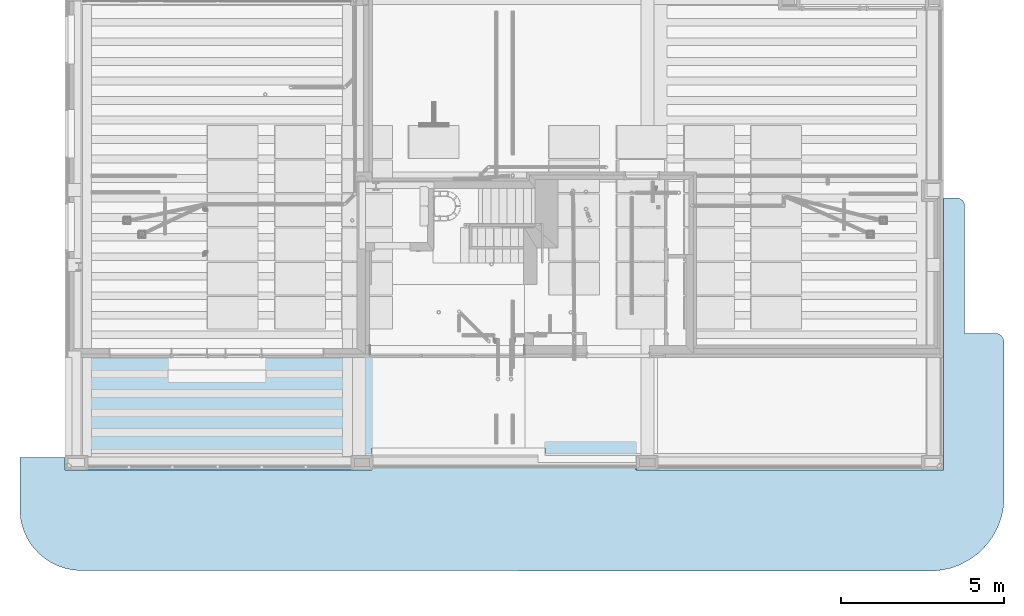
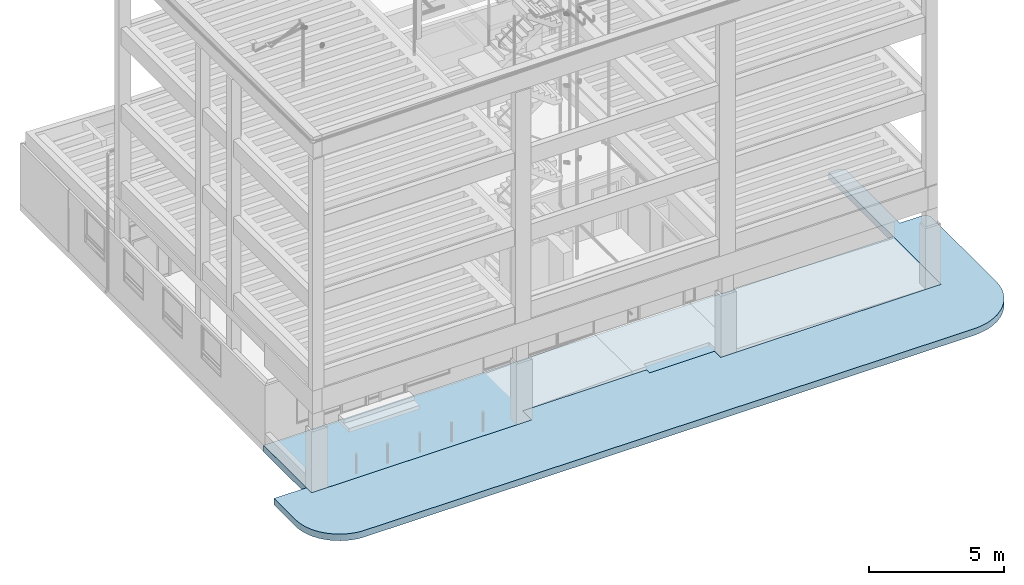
# One storey, part 17 of 108: 2 slabs.
"""IFC2X3 building model written with IfcOpenShell, lengths in metres."""

import ifcopenshell
import ifcopenshell.guid

model = None  # the IFC model being written
_history = None  # IfcOwnerHistory: only IFC2X3 demands one
_inside = {}  # id of a spatial element -> (the spatial element, [elements in it])
_under = {}  # id of a project, library or spatial element -> (it, [spatial elements below it])
_declared = {}  # id of a project -> (the project, [libraries it declares])
_typed = {}  # id of a type object -> (the type object, [elements of that type])
_made_of = {}  # id of a material, layer set ... -> (it, [elements and type objects made of it])


def new_model(schema):
    """Start an empty IFC model of exactly this schema.

    Asked for "IFC4X3", IfcOpenShell would pick the latest addendum, in which some entities
    have other attributes; the version numbers below select the first issue.
    IFC2X3 requires an IfcOwnerHistory on every rooted entity: one is made here for all.
    """
    global model, _history
    if schema == "IFC4X3":
        model = ifcopenshell.file(schema_version=(4, 3, 0, 0))
    else:
        model = ifcopenshell.file(schema=schema)
    _inside.clear()
    _under.clear()
    _declared.clear()
    _typed.clear()
    _made_of.clear()
    _history = None
    if model.schema == "IFC2X3":
        org = make("IfcOrganization", Name="unknown")
        user = make(
            "IfcPersonAndOrganization",
            ThePerson=make("IfcPerson", FamilyName="unknown"),
            TheOrganization=org,
        )
        app = make(
            "IfcApplication",
            ApplicationDeveloper=org,
            Version="unknown",
            ApplicationFullName="unknown",
            ApplicationIdentifier="unknown",
        )
        _history = make(
            "IfcOwnerHistory",
            OwningUser=user,
            OwningApplication=app,
            ChangeAction="ADDED",
            CreationDate=0,
        )
    return model


def make(cls, **values):
    """One entity of the class cls with the attributes given. An attribute that is None is left unset."""
    return model.create_entity(
        cls, **{name: value for name, value in values.items() if value is not None}
    )


def entity(cls, *values):
    """Any entity or typed value of the class cls, its attributes in the order of the schema. None: left unset."""
    e = model.create_entity(cls)
    for i, value in enumerate(values):
        if value is not None:
            e[i] = value
    return e


def rooted(cls, **values):
    """An entity with a GlobalId (a new one), such as an element, a storey or a relation."""
    return make(cls, GlobalId=ifcopenshell.guid.new(), OwnerHistory=_history, **values)


def si_unit(unit_type, name, prefix=None):
    """IfcSIUnit, for example si_unit("LENGTHUNIT", "METRE", prefix="MILLI")."""
    return make("IfcSIUnit", UnitType=unit_type, Prefix=prefix, Name=name)


def converted_unit(unit_type, name, factor, base, dimensions=None, offset=None):
    """IfcConversionBasedUnit, such as the inch: factor (a typed value) times the base unit."""
    return make(
        "IfcConversionBasedUnit"
        if offset is None
        else "IfcConversionBasedUnitWithOffset",
        ConversionOffset=offset,
        Dimensions=None
        if dimensions is None
        else entity("IfcDimensionalExponents", *dimensions),
        UnitType=unit_type,
        Name=name,
        ConversionFactor=make(
            "IfcMeasureWithUnit", ValueComponent=factor, UnitComponent=base
        ),
    )


def derived_unit(unit_type, elements):
    """IfcDerivedUnit: a product of units, each with its exponent."""
    return make(
        "IfcDerivedUnit",
        Elements=[
            make("IfcDerivedUnitElement", Unit=unit, Exponent=power)
            for unit, power in elements
        ],
        UnitType=unit_type,
    )


def money_unit(currency):
    """IfcMonetaryUnit."""
    return make("IfcMonetaryUnit", Currency=currency)


def assignment(units):
    """IfcUnitAssignment: the units of a project."""
    return None if units is None else make("IfcUnitAssignment", Units=units)


def point(xyz):
    """IfcCartesianPoint."""
    return None if xyz is None else make("IfcCartesianPoint", Coordinates=xyz)


def direction(xyz):
    """IfcDirection."""
    return None if xyz is None else make("IfcDirection", DirectionRatios=xyz)


def frame(location, z_axis=None, x_axis=None):
    """IfcAxis2Placement3D, a coordinate frame: its origin and axes. An axis left out is left unset."""
    return make(
        "IfcAxis2Placement3D",
        Location=point(location),
        Axis=direction(z_axis),
        RefDirection=direction(x_axis),
    )


def origin_with_axes():
    """The frame at (0, 0, 0) with the z axis (0, 0, 1) and the x axis (1, 0, 0) written out."""
    return frame((0.0, 0.0, 0.0), z_axis=(0.0, 0.0, 1.0), x_axis=(1.0, 0.0, 0.0))


def place(relative_to, where):
    """IfcLocalPlacement: puts the frame where relative to a parent placement (None: the world)."""
    return make(
        "IfcLocalPlacement", PlacementRelTo=relative_to, RelativePlacement=where
    )


def context(
    kind, dimensions, precision=None, world=None, true_north=None, identifier=None
):
    """IfcGeometricRepresentationContext, for example the 3D "Model" context."""
    return make(
        "IfcGeometricRepresentationContext",
        ContextIdentifier=identifier,
        ContextType=kind,
        CoordinateSpaceDimension=dimensions,
        Precision=precision,
        WorldCoordinateSystem=world,
        TrueNorth=true_north,
    )


def subcontext(parent, identifier, kind, view, scale=None):
    """IfcGeometricRepresentationSubContext, for example "Body" below "Model"."""
    return make(
        "IfcGeometricRepresentationSubContext",
        ContextIdentifier=identifier,
        ContextType=kind,
        ParentContext=parent,
        TargetScale=scale,
        TargetView=view,
    )


def project(units=None, contexts=None):
    """IfcProject with its units and contexts."""
    return rooted(
        "IfcProject",
        Name="project",
        RepresentationContexts=contexts,
        UnitsInContext=assignment(units),
    )


def spatial(cls, under=None, at=None, **own):
    """A site, building, storey or space (cls), placed at a placement, below another one or the project."""
    s = rooted(cls, ObjectPlacement=at, **own)
    if under is not None:
        _under.setdefault(under.id(), (under, []))[1].append(s)
    return s


def faces_of(points, faces, orient=None, outer=None):
    """IfcFace entities. A face is a list of loops; a loop is a list of indices into points, from 0.

    orient and outer hold one flag for each loop. By default every Orientation is true, the
    first loop of a face is its IfcFaceOuterBound and the others are IfcFaceBound.
    """
    made = []
    for i, loops in enumerate(faces):
        bounds = []
        for j, loop in enumerate(loops):
            is_outer = j == 0 if outer is None else outer[i][j]
            bounds.append(
                make(
                    "IfcFaceOuterBound" if is_outer else "IfcFaceBound",
                    Bound=make("IfcPolyLoop", Polygon=[points[k] for k in loop]),
                    Orientation=True if orient is None else orient[i][j],
                )
            )
        made.append(make("IfcFace", Bounds=bounds))
    return made


def faceted_brep(points, faces, orient=None, outer=None, voids=None):
    """IfcFacetedBrep: a solid bounded by flat faces; with voids (closed shells), ...WithVoids."""
    shared = [point(p) for p in points]
    hull = make("IfcClosedShell", CfsFaces=faces_of(shared, faces, orient, outer))
    if voids is None:
        return make("IfcFacetedBrep", Outer=hull)
    return make(
        "IfcFacetedBrepWithVoids",
        Outer=hull,
        Voids=[
            make(cls, CfsFaces=faces_of(shared, fs, o, b)) for cls, fs, o, b in voids
        ],
    )


def shape(context_of_items, identifier, shape_type, items):
    """IfcShapeRepresentation: the items that make up one representation, for example the "Body"."""
    return make(
        "IfcShapeRepresentation",
        ContextOfItems=context_of_items,
        RepresentationIdentifier=identifier,
        RepresentationType=shape_type,
        Items=items,
    )


def material(Name=None, Category=None):
    """IfcMaterial."""
    return make("IfcMaterial", Name=Name, Category=Category)


def made_of(thing, what):
    """Note that an element or type object is made of a material, layer set ...; save() writes the relation."""
    if what is not None:
        _made_of.setdefault(what.id(), (what, []))[1].append(thing)
    return thing


def type_object(cls, material=None, **own):
    """A type object (cls), such as IfcWallType, which elements share."""
    return made_of(rooted(cls, **own), material)


def element(
    cls,
    number,
    at=None,
    inside=None,
    cuts=None,
    type_object=None,
    material=None,
    context=None,
    identifier="Body",
    shape_type=None,
    held_by="IfcProductDefinitionShape",
    body=None,
    shapes=None,
    **own,
):
    """One element of the class cls, such as IfcWall. Its Tag is "e" and its number.

    at: its placement. inside: the storey or other place that contains it. cuts: it is an
    opening in that element (IfcRelVoidsElement). A single representation is given by context,
    identifier, shape_type and body (its items); several are given by shapes. held_by: the class
    of the entity that holds the representations. save() writes the other relations.
    """
    e = rooted(cls, Tag="e%d" % number, ObjectPlacement=at, **own)
    if body is not None:
        shapes = [shape(context, identifier, shape_type, body)]
    if shapes is not None:
        e.Representation = make(held_by, Representations=shapes)
    if inside is not None:
        _inside.setdefault(inside.id(), (inside, []))[1].append(e)
    if cuts is not None:
        rooted(
            "IfcRelVoidsElement", RelatingBuildingElement=cuts, RelatedOpeningElement=e
        )
    if type_object is not None:
        _typed.setdefault(type_object.id(), (type_object, []))[1].append(e)
    return made_of(e, material)


def aggregate(whole, parts):
    """IfcRelAggregates: a whole, such as a stair, and the parts it consists of."""
    return rooted("IfcRelAggregates", RelatingObject=whole, RelatedObjects=parts)


def save(model, path):
    """Write the relations noted so far, then the file.

    IfcRelAggregates (storeys below a building ...), IfcRelContainedInSpatialStructure (elements
    in a storey), IfcRelDefinesByType, IfcRelAssociatesMaterial and IfcRelDeclares: one each for
    every whole, place, type object, material and project.
    """
    for whole, parts in _under.values():
        aggregate(whole, parts)
    for where, things in _inside.values():
        rooted(
            "IfcRelContainedInSpatialStructure",
            RelatedElements=things,
            RelatingStructure=where,
        )
    for kind, things in _typed.values():
        rooted("IfcRelDefinesByType", RelatedObjects=things, RelatingType=kind)
    for what, things in _made_of.values():
        rooted("IfcRelAssociatesMaterial", RelatedObjects=things, RelatingMaterial=what)
    for by, libraries in _declared.values():
        rooted("IfcRelDeclares", RelatingContext=by, RelatedDefinitions=libraries)
    model.write(path)


model = new_model("IFC2X3")

# Units and contexts
model_context = context("Model", 3, precision=1e-05, world=origin_with_axes(), true_north=direction((0.0, 1.0)))
body_context = subcontext(model_context, "Body", "Model", "MODEL_VIEW", scale=1.0)
ifc_project = project(units=[si_unit("LENGTHUNIT", "METRE"), si_unit("AREAUNIT", "SQUARE_METRE"), si_unit("VOLUMEUNIT", "CUBIC_METRE"), si_unit("ABSORBEDDOSEUNIT", "GRAY"), si_unit("AMOUNTOFSUBSTANCEUNIT", "MOLE"), si_unit("DOSEEQUIVALENTUNIT", "SIEVERT"), si_unit("ELECTRICCAPACITANCEUNIT", "FARAD"), si_unit("ELECTRICCHARGEUNIT", "COULOMB"), si_unit("ELECTRICCONDUCTANCEUNIT", "SIEMENS"), si_unit("ELECTRICCURRENTUNIT", "AMPERE"), si_unit("ELECTRICRESISTANCEUNIT", "OHM"), si_unit("ELECTRICVOLTAGEUNIT", "VOLT"), si_unit("ENERGYUNIT", "JOULE"), si_unit("FORCEUNIT", "NEWTON"), si_unit("FREQUENCYUNIT", "HERTZ"), si_unit("ILLUMINANCEUNIT", "LUX"), si_unit("INDUCTANCEUNIT", "HENRY"), si_unit("LUMINOUSFLUXUNIT", "LUMEN"), si_unit("LUMINOUSINTENSITYUNIT", "CANDELA"), si_unit("MAGNETICFLUXDENSITYUNIT", "TESLA"), si_unit("MAGNETICFLUXUNIT", "WEBER"), si_unit("MASSUNIT", "GRAM"), converted_unit("PLANEANGLEUNIT", "degree", entity("IfcReal", 0.0174532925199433), si_unit("PLANEANGLEUNIT", "RADIAN"), dimensions=[0, 0, 0, 0, 0, 0, 0]), si_unit("POWERUNIT", "WATT"), si_unit("PRESSUREUNIT", "PASCAL"), si_unit("RADIOACTIVITYUNIT", "BECQUEREL"), si_unit("SOLIDANGLEUNIT", "STERADIAN"), si_unit("THERMODYNAMICTEMPERATUREUNIT", "KELVIN"), si_unit("TIMEUNIT", "SECOND"), derived_unit("ACCELERATIONUNIT", [(si_unit("LENGTHUNIT", "METRE"), 1), (si_unit("TIMEUNIT", "SECOND"), -2)]), derived_unit("ANGULARVELOCITYUNIT", [(converted_unit("PLANEANGLEUNIT", "degree", entity("IfcReal", 0.0174532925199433), si_unit("PLANEANGLEUNIT", "RADIAN"), dimensions=[0, 0, 0, 0, 0, 0, 0]), 1), (si_unit("TIMEUNIT", "SECOND"), -1)]), derived_unit("CURVATUREUNIT", [(converted_unit("PLANEANGLEUNIT", "degree", entity("IfcReal", 0.0174532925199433), si_unit("PLANEANGLEUNIT", "RADIAN"), dimensions=[0, 0, 0, 0, 0, 0, 0]), 1), (si_unit("LENGTHUNIT", "METRE"), -1)]), derived_unit("DYNAMICVISCOSITYUNIT", [(si_unit("PRESSUREUNIT", "PASCAL"), 1), (si_unit("TIMEUNIT", "SECOND"), 1)]), derived_unit("HEATFLUXDENSITYUNIT", [(si_unit("POWERUNIT", "WATT"), 1), (si_unit("LENGTHUNIT", "METRE"), -2)]), derived_unit("HEATINGVALUEUNIT", [(si_unit("ENERGYUNIT", "JOULE"), 1), (si_unit("MASSUNIT", "GRAM"), -1)]), derived_unit("INTEGERCOUNTRATEUNIT", [(si_unit("TIMEUNIT", "SECOND"), -1)]), derived_unit("IONCONCENTRATIONUNIT", [(si_unit("MASSUNIT", "GRAM"), 1), (si_unit("VOLUMEUNIT", "CUBIC_METRE"), -1)]), derived_unit("ISOTHERMALMOISTURECAPACITYUNIT", [(si_unit("VOLUMEUNIT", "CUBIC_METRE"), 1), (si_unit("MASSUNIT", "GRAM"), -1)]), derived_unit("KINEMATICVISCOSITYUNIT", [(si_unit("AREAUNIT", "SQUARE_METRE"), 1), (si_unit("TIMEUNIT", "SECOND"), -1)]), derived_unit("LINEARFORCEUNIT", [(si_unit("FORCEUNIT", "NEWTON"), 1), (si_unit("LENGTHUNIT", "METRE"), -1)]), derived_unit("LINEARMOMENTUNIT", [(si_unit("FORCEUNIT", "NEWTON"), 1), (si_unit("LENGTHUNIT", "METRE"), -1)]), derived_unit("LINEARSTIFFNESSUNIT", [(si_unit("FORCEUNIT", "NEWTON"), 1), (si_unit("LENGTHUNIT", "METRE"), -1)]), derived_unit("LINEARVELOCITYUNIT", [(si_unit("LENGTHUNIT", "METRE"), 1), (si_unit("TIMEUNIT", "SECOND"), -1)]), derived_unit("LUMINOUSINTENSITYDISTRIBUTIONUNIT", [(si_unit("LUMINOUSINTENSITYUNIT", "CANDELA"), 1), (si_unit("LUMINOUSFLUXUNIT", "LUMEN"), -1)]), derived_unit("MASSDENSITYUNIT", [(si_unit("MASSUNIT", "GRAM"), 1), (si_unit("VOLUMEUNIT", "CUBIC_METRE"), -1)]), derived_unit("MASSFLOWRATEUNIT", [(si_unit("MASSUNIT", "GRAM"), 1), (si_unit("TIMEUNIT", "SECOND"), -1)]), derived_unit("MASSPERLENGTHUNIT", [(si_unit("MASSUNIT", "GRAM"), 1), (si_unit("LENGTHUNIT", "METRE"), -1)]), derived_unit("MODULUSOFELASTICITYUNIT", [(si_unit("FORCEUNIT", "NEWTON"), 1), (si_unit("AREAUNIT", "SQUARE_METRE"), -1)]), derived_unit("MODULUSOFLINEARSUBGRADEREACTIONUNIT", [(si_unit("FORCEUNIT", "NEWTON"), 1), (si_unit("LENGTHUNIT", "METRE"), -2)]), derived_unit("MODULUSOFROTATIONALSUBGRADEREACTIONUNIT", [(si_unit("FORCEUNIT", "NEWTON"), 1), (si_unit("LENGTHUNIT", "METRE"), 1)]), derived_unit("MODULUSOFSUBGRADEREACTIONUNIT", [(si_unit("FORCEUNIT", "NEWTON"), 1), (si_unit("VOLUMEUNIT", "CUBIC_METRE"), -1)]), derived_unit("MOISTUREDIFFUSIVITYUNIT", [(si_unit("VOLUMEUNIT", "CUBIC_METRE"), 1), (si_unit("TIMEUNIT", "SECOND"), -1)]), derived_unit("MOLECULARWEIGHTUNIT", [(si_unit("MASSUNIT", "GRAM"), 1), (si_unit("AMOUNTOFSUBSTANCEUNIT", "MOLE"), -1)]), derived_unit("PLANARFORCEUNIT", [(si_unit("FORCEUNIT", "NEWTON"), 1), (si_unit("LENGTHUNIT", "METRE"), -2)]), derived_unit("ROTATIONALFREQUENCYUNIT", [(si_unit("TIMEUNIT", "SECOND"), -1)]), derived_unit("ROTATIONALMASSUNIT", [(si_unit("MASSUNIT", "GRAM"), 1), (si_unit("LENGTHUNIT", "METRE"), 2)]), derived_unit("ROTATIONALSTIFFNESSUNIT", [(si_unit("FORCEUNIT", "NEWTON"), 1), (si_unit("LENGTHUNIT", "METRE"), 1), (converted_unit("PLANEANGLEUNIT", "degree", entity("IfcReal", 0.0174532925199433), si_unit("PLANEANGLEUNIT", "RADIAN"), dimensions=[0, 0, 0, 0, 0, 0, 0]), -1)]), derived_unit("SECTIONAREAINTEGRALUNIT", [(si_unit("LENGTHUNIT", "METRE"), 5)]), derived_unit("SECTIONMODULUSUNIT", [(si_unit("LENGTHUNIT", "METRE"), 3)]), derived_unit("SHEARMODULUSUNIT", [(si_unit("FORCEUNIT", "NEWTON"), 1), (si_unit("AREAUNIT", "SQUARE_METRE"), -1)]), derived_unit("SOUNDPOWERUNIT", [(si_unit("ENERGYUNIT", "JOULE"), 1), (si_unit("TIMEUNIT", "SECOND"), -1)]), derived_unit("SPECIFICHEATCAPACITYUNIT", [(si_unit("FORCEUNIT", "NEWTON"), 1), (si_unit("MASSUNIT", "GRAM"), -1), (si_unit("THERMODYNAMICTEMPERATUREUNIT", "KELVIN"), -1)]), derived_unit("TEMPERATUREGRADIENTUNIT", [(si_unit("THERMODYNAMICTEMPERATUREUNIT", "KELVIN"), 1), (si_unit("LENGTHUNIT", "METRE"), -1)]), derived_unit("THERMALADMITTANCEUNIT", [(si_unit("POWERUNIT", "WATT"), 1), (si_unit("AREAUNIT", "SQUARE_METRE"), -1), (si_unit("THERMODYNAMICTEMPERATUREUNIT", "KELVIN"), -1)]), derived_unit("THERMALCONDUCTANCEUNIT", [(si_unit("POWERUNIT", "WATT"), 1), (si_unit("LENGTHUNIT", "METRE"), -1), (si_unit("THERMODYNAMICTEMPERATUREUNIT", "KELVIN"), -1)]), derived_unit("THERMALEXPANSIONCOEFFICIENTUNIT", [(si_unit("THERMODYNAMICTEMPERATUREUNIT", "KELVIN"), -1)]), derived_unit("THERMALRESISTANCEUNIT", [(si_unit("AREAUNIT", "SQUARE_METRE"), 1), (si_unit("POWERUNIT", "WATT"), -1)]), derived_unit("THERMALTRANSMITTANCEUNIT", [(si_unit("POWERUNIT", "WATT"), 1), (si_unit("AREAUNIT", "SQUARE_METRE"), -1), (si_unit("THERMODYNAMICTEMPERATUREUNIT", "KELVIN"), -1)]), derived_unit("TORQUEUNIT", [(si_unit("FORCEUNIT", "NEWTON"), 1), (si_unit("LENGTHUNIT", "METRE"), 1)]), derived_unit("VAPORPERMEABILITYUNIT", [(si_unit("MASSUNIT", "GRAM"), 1), (si_unit("TIMEUNIT", "SECOND"), -1)]), derived_unit("VOLUMETRICFLOWRATEUNIT", [(si_unit("VOLUMEUNIT", "CUBIC_METRE"), 1), (si_unit("TIMEUNIT", "SECOND"), -1)]), derived_unit("WARPINGCONSTANTUNIT", [(si_unit("LENGTHUNIT", "METRE"), 6)]), derived_unit("WARPINGMOMENTUNIT", [(si_unit("FORCEUNIT", "NEWTON"), 1), (si_unit("LENGTHUNIT", "METRE"), 2)]), money_unit("GBP")], contexts=[model_context])

# Site, building, storey
site_placement = place(None, origin_with_axes())
site = spatial("IfcSite", under=ifc_project, at=site_placement, Name="Site", CompositionType="ELEMENT")
building_placement = place(site_placement, origin_with_axes())
building = spatial("IfcBuilding", under=site, at=building_placement, Name="Building01", CompositionType="ELEMENT")
storey_placement = place(building_placement, origin_with_axes())
storey = spatial("IfcBuildingStorey", under=building, at=storey_placement, Name="GF", CompositionType="ELEMENT", Elevation=0.0)

# Slabs
ifc_material = material(Name="A_BSUK_Slabs")
slab_type = type_object("IfcSlabType", Name="A-FloorsSlabs A_BSUK_Slabs", PredefinedType="FLOOR")
placement = place(storey_placement, origin_with_axes())
element("IfcSlab", 1, at=placement, inside=storey, type_object=slab_type, material=ifc_material, Name="A-FloorsSlabs A_BSUK_Slabs", ObjectType="CompoundSlabLeaf", context=body_context, shape_type="Brep", body=[
    faceted_brep([(26.981285, 3.559165, -0.445), (26.981285, 3.559165, -0.145), (26.981285, -0.000988, -0.145), (26.981285, -0.000988, -0.445), (-0.000238, 3.559142, -0.445), (-0.000238, 3.559142, -0.145), (1.7e-05, -0.000329, -0.445), (1.7e-05, -0.000329, -0.145), (9.437557, -0.000329, -0.445), (9.437557, -0.000329, -0.145), (9.437557, 0.449338, -0.445), (9.437557, 0.449338, -0.145), (9.437557, 0.672774, -0.445), (9.437557, 0.672774, -0.145), (14.745613, 0.672774, -0.445), (14.745613, 0.672774, -0.145), (14.745613, 0.449009, -0.445), (14.745613, 0.449009, -0.145), (17.533212, 0.449009, -0.445), (17.533212, 0.449009, -0.145), (17.533212, -0.000988, -0.445), (17.533212, -0.000988, -0.145)], [[[0, 1, 2, 3]], [[4, 5, 1, 0]], [[6, 7, 5, 4]], [[8, 9, 7, 6]], [[10, 11, 9, 8]], [[12, 13, 11, 10]], [[14, 15, 13, 12]], [[16, 17, 15, 14]], [[18, 19, 17, 16]], [[20, 21, 19, 18]], [[3, 2, 21, 20]], [[1, 5, 7, 9, 11, 13, 15, 17, 19, 21, 2]], [[3, 20, 18, 16, 14, 12, 10, 8, 6, 4, 0]]]),
])
element("IfcSlab", 2, at=placement, inside=storey, type_object=slab_type, material=ifc_material, Name="A-FloorsSlabs A_BSUK_Slabs", ObjectType="CompoundSlabLeaf", context=body_context, shape_type="Brep", body=[
    faceted_brep([(-1.380966, 0.377565, -0.445), (-1.380966, 0.377565, -0.145), (1.4e-05, 0.377513, -0.145), (1.4e-05, 0.377513, -0.445), (-1.38103, -1.312597, -0.445), (-1.38103, -1.312597, -0.145), (-1.357941, -1.529854, -0.445), (-1.357941, -1.529854, -0.145), (-1.306799, -1.742445, -0.445), (-1.306799, -1.742445, -0.145), (-1.261575, -1.877344, -0.445), (-1.261575, -1.877344, -0.145), (-1.170477, -2.079855, -0.445), (-1.170477, -2.079855, -0.145), (-1.047549, -2.283018, -0.445), (-1.047549, -2.283018, -0.145), (-0.941555, -2.417917, -0.445), (-0.941555, -2.417917, -0.145), (-0.7746, -2.592771, -0.445), (-0.7746, -2.592771, -0.145), (-0.582766, -2.746679, -0.445), (-0.582766, -2.746679, -0.145), (-0.395794, -2.861828, -0.445), (-0.395794, -2.861828, -0.145), (-0.168588, -2.964932, -0.445), (-0.168588, -2.964932, -0.145), (0.039993, -3.031347, -0.445), (0.039993, -3.031347, -0.145), (0.219552, -3.066674, -0.445), (0.219552, -3.066674, -0.145), (0.387188, -3.083765, -0.445), (0.387188, -3.083765, -0.145), (0.55433, -3.086414, -0.445), (0.55433, -3.086414, -0.145), (26.641795, -3.104674, -0.445), (26.641795, -3.104674, -0.145), (26.820944, -3.092737, -0.445), (26.820944, -3.092737, -0.145), (27.219463, -3.013879, -0.445), (27.219463, -3.013879, -0.145), (27.446114, -2.931245, -0.445), (27.446114, -2.931245, -0.145), (27.779781, -2.761027, -0.445), (27.779781, -2.761027, -0.145), (28.051214, -2.558457, -0.445), (28.051214, -2.558457, -0.145), (28.167486, -2.453027, -0.445), (28.167486, -2.453027, -0.145), (28.363013, -2.231361, -0.445), (28.363013, -2.231361, -0.145), (28.480425, -2.068468, -0.445), (28.480425, -2.068468, -0.145), (28.611741, -1.835956, -0.445), (28.611741, -1.835956, -0.145), (28.681422, -1.679135, -0.445), (28.681422, -1.679135, -0.145), (28.750791, -1.478055, -0.445), (28.750791, -1.478055, -0.145), (28.797066, -1.292407, -0.445), (28.797066, -1.292407, -0.145), (28.82674, -1.109668, -0.445), (28.82674, -1.109668, -0.145), (28.841115, -0.936913, -0.445), (28.841115, -0.936913, -0.145), (28.841298, 3.92873, -0.445), (28.841298, 3.92873, -0.145), (28.822083, 4.02921, -0.445), (28.822083, 4.02921, -0.145), (28.76432, 4.118123, -0.445), (28.76432, 4.118123, -0.145), (28.696985, 4.167716, -0.445), (28.696985, 4.167716, -0.145), (28.63884, 4.189913, -0.445), (28.63884, 4.189913, -0.145), (28.576029, 4.197758, -0.445), (28.576029, 4.197758, -0.145), (27.63274, 4.197793, -0.445), (27.63274, 4.197793, -0.145), (27.632886, 8.097401, -0.445), (27.632886, 8.097401, -0.145), (27.629754, 8.1627, -0.445), (27.629754, 8.1627, -0.145), (27.605065, 8.227966, -0.445), (27.605065, 8.227966, -0.145), (27.566836, 8.280731, -0.445), (27.566836, 8.280731, -0.145), (27.51739, 8.318193, -0.445), (27.51739, 8.318193, -0.145), (27.451976, 8.344022, -0.445), (27.451976, 8.344022, -0.145), (27.384393, 8.349192, -0.445), (27.384393, 8.349192, -0.145), (26.981469, 8.349207, -0.445), (26.981469, 8.349207, -0.145), (26.981155, -0.000988, -0.445), (26.981155, -0.000988, -0.145), (17.533212, -0.000633, -0.445), (17.533212, -0.000633, -0.145), (17.533196, 0.449107, -0.445), (17.533196, 0.449107, -0.145), (14.745613, 0.449009, -0.445), (14.745613, 0.449009, -0.145), (14.745605, 0.672774, -0.445), (14.745605, 0.672774, -0.145), (9.437541, 0.672587, -0.445), (9.437541, 0.672587, -0.145), (9.437565, -0.000329, -0.445), (9.437565, -0.000329, -0.145), (1.7e-05, -0.000662, -0.445), (1.7e-05, -0.000662, -0.145)], [[[0, 1, 2, 3]], [[4, 5, 1, 0]], [[6, 7, 5, 4]], [[8, 9, 7, 6]], [[10, 11, 9, 8]], [[12, 13, 11, 10]], [[14, 15, 13, 12]], [[16, 17, 15, 14]], [[18, 19, 17, 16]], [[20, 21, 19, 18]], [[22, 23, 21, 20]], [[24, 25, 23, 22]], [[26, 27, 25, 24]], [[28, 29, 27, 26]], [[30, 31, 29, 28]], [[32, 33, 31, 30]], [[34, 35, 33, 32]], [[36, 37, 35, 34]], [[38, 39, 37, 36]], [[40, 41, 39, 38]], [[42, 43, 41, 40]], [[44, 45, 43, 42]], [[46, 47, 45, 44]], [[48, 49, 47, 46]], [[50, 51, 49, 48]], [[52, 53, 51, 50]], [[54, 55, 53, 52]], [[56, 57, 55, 54]], [[58, 59, 57, 56]], [[60, 61, 59, 58]], [[62, 63, 61, 60]], [[64, 65, 63, 62]], [[66, 67, 65, 64]], [[68, 69, 67, 66]], [[70, 71, 69, 68]], [[72, 73, 71, 70]], [[74, 75, 73, 72]], [[76, 77, 75, 74]], [[78, 79, 77, 76]], [[80, 81, 79, 78]], [[82, 83, 81, 80]], [[84, 85, 83, 82]], [[86, 87, 85, 84]], [[88, 89, 87, 86]], [[90, 91, 89, 88]], [[92, 93, 91, 90]], [[94, 95, 93, 92]], [[96, 97, 95, 94]], [[98, 99, 97, 96]], [[100, 101, 99, 98]], [[102, 103, 101, 100]], [[104, 105, 103, 102]], [[106, 107, 105, 104]], [[108, 109, 107, 106]], [[3, 2, 109, 108]], [[1, 5, 7, 9, 11, 13, 15, 17, 19, 21, 23, 25, 27, 29, 31, 33, 35, 37, 39, 41, 43, 45, 47, 49, 51, 53, 55, 57, 59, 61, 63, 65, 67, 69, 71, 73, 75, 77, 79, 81, 83, 85, 87, 89, 91, 93, 95, 97, 99, 101, 103, 105, 107, 109, 2]], [[3, 108, 106, 104, 102, 100, 98, 96, 94, 92, 90, 88, 86, 84, 82, 80, 78, 76, 74, 72, 70, 68, 66, 64, 62, 60, 58, 56, 54, 52, 50, 48, 46, 44, 42, 40, 38, 36, 34, 32, 30, 28, 26, 24, 22, 20, 18, 16, 14, 12, 10, 8, 6, 4, 0]]]),
])

save(model, "model.ifc")
